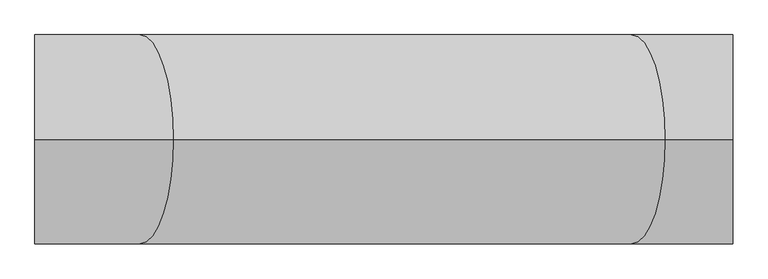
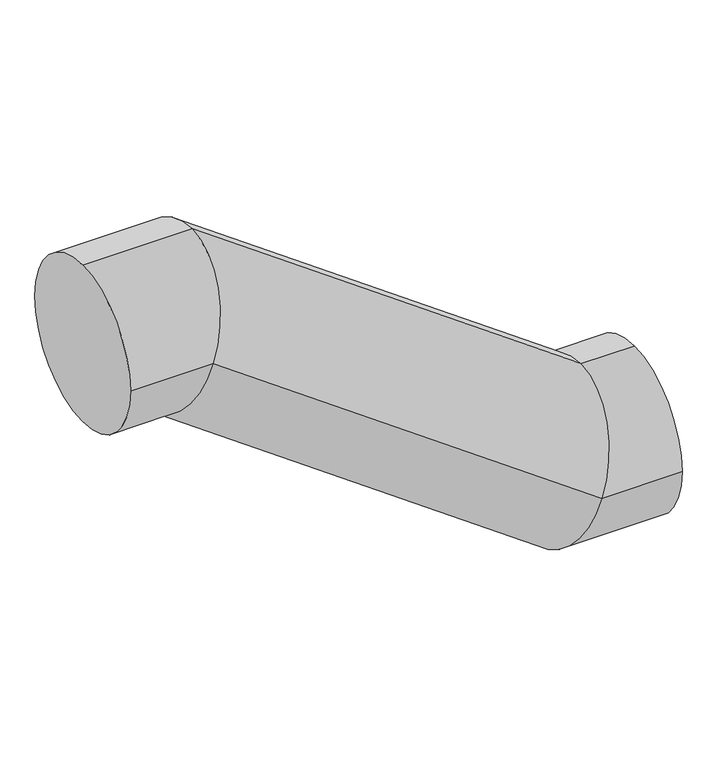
"""IFC4 building model written with IfcOpenShell, lengths in millimetres: duct fitting geometry, BL_УткаВоздуховодов_Круглая : Ниппельное соединение."""

from ifc_helpers import new_model, si_unit, frame, origin, place, context, project, spatial, circle_curve, ellipse_curve, source, transform, mapped, element, save
from ifc_brep_helpers import plane_surface, cylinder_surface, advanced_brep


def duct_fitting_5eff2181(model_context):
    return source(origin(), model_context, "Body", "AdvancedBrep", [
        advanced_brep(
        [(0.0, -150.0, 0.0), (0.0, 0.0, 150.0), (0.0, 150.0, 0.0), (0.0, 0.0, -150.0), (150.0, 150.0, 0.0), (101.7994324, 0.0, -150.0), (198.2005676, 0.0, 150.0), (854.8, 150.0, -505.113589), (806.5994324, 0.0, -655.113589), (903.0005676, 0.0, -355.113589), (1000.0, -150.0, -505.113589), (1000.0, 0.0, -655.113589), (1000.0, 150.0, -505.113589), (1000.0, 0.0, -355.113589), (150.0, -150.0, 0.0), (854.8, -150.0, -505.113589)],
        [
            (0, 1, circle_curve(frame((0.0, 0.0, 0.0), z_axis=(-1.0, 0.0, 0.0), x_axis=(0.0, 0.0, 1.0)), 150.0)),
            (1, 2, circle_curve(frame((0.0, 0.0, 0.0), z_axis=(-1.0, 0.0, 0.0), x_axis=(0.0, 0.0, 1.0)), 150.0)),
            (2, 3, circle_curve(frame((0.0, 0.0, 0.0), z_axis=(-1.0, 0.0, 0.0), x_axis=(0.0, 0.0, 1.0)), 150.0)),
            (3, 0, circle_curve(frame((0.0, 0.0, 0.0), z_axis=(-1.0, 0.0, 0.0), x_axis=(0.0, 0.0, 1.0)), 150.0)),
            (2, 4),
            (4, 5, ellipse_curve(frame((150.0, 0.0, 0.0), z_axis=(-0.9520539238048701, 0.0, 0.30593026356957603), x_axis=(-0.30593026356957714, 0.0, -0.9520539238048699)), 157.5541009, 150.0)),
            (5, 3),
            (1, 6),
            (6, 4, ellipse_curve(frame((150.0, 0.0, 0.0), z_axis=(-0.9520539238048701, 0.0, 0.30593026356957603), x_axis=(-0.30593026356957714, 0.0, -0.9520539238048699)), 157.5541009, 150.0)),
            (4, 7),
            (7, 8, ellipse_curve(frame((854.8, 0.0, -505.113589), z_axis=(-0.9520539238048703, 0.0, 0.30593026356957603), x_axis=(0.30593026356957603, 0.0, 0.9520539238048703)), 157.5541009, 150.0)),
            (8, 5),
            (6, 9),
            (9, 7, ellipse_curve(frame((854.8, 0.0, -505.113589), z_axis=(-0.9520539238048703, 0.0, 0.30593026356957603), x_axis=(0.30593026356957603, 0.0, 0.9520539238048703)), 157.5541009, 150.0)),
            (10, 11, circle_curve(frame((1000.0, 0.0, -505.113589), z_axis=(1.0, 0.0, 0.0), x_axis=(0.0, 0.0, 1.0)), 150.0)),
            (11, 12, circle_curve(frame((1000.0, 0.0, -505.113589), z_axis=(1.0, 0.0, 0.0), x_axis=(0.0, 0.0, 1.0)), 150.0)),
            (12, 13, circle_curve(frame((1000.0, 0.0, -505.113589), z_axis=(1.0, 0.0, 0.0), x_axis=(0.0, 0.0, 1.0)), 150.0)),
            (13, 10, circle_curve(frame((1000.0, 0.0, -505.113589), z_axis=(1.0, 0.0, 0.0), x_axis=(0.0, 0.0, 1.0)), 150.0)),
            (7, 12),
            (11, 8),
            (9, 13),
            (0, 14),
            (14, 6, ellipse_curve(frame((150.0, 0.0, 0.0), z_axis=(-0.9520539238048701, 0.0, 0.30593026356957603), x_axis=(-0.30593026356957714, 0.0, -0.9520539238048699)), 157.5541009, 150.0)),
            (5, 14, ellipse_curve(frame((150.0, 0.0, 0.0), z_axis=(-0.9520539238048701, 0.0, 0.30593026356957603), x_axis=(-0.30593026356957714, 0.0, -0.9520539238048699)), 157.5541009, 150.0)),
            (14, 15),
            (15, 9, ellipse_curve(frame((854.8, 0.0, -505.113589), z_axis=(-0.9520539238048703, 0.0, 0.30593026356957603), x_axis=(0.30593026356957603, 0.0, 0.9520539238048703)), 157.5541009, 150.0)),
            (8, 15, ellipse_curve(frame((854.8, 0.0, -505.113589), z_axis=(-0.9520539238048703, 0.0, 0.30593026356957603), x_axis=(0.30593026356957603, 0.0, 0.9520539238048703)), 157.5541009, 150.0)),
            (15, 10),
        ],
        [
            plane_surface(frame((0.0, 0.0, 0.0), z_axis=(-1.0, 0.0, 0.0), x_axis=(0.0, -1.0, 0.0))),
            cylinder_surface(frame((0.0, 0.0, 0.0), z_axis=(-1.0, 0.0, 0.0), x_axis=(0.0, 0.0, 1.0)), 150.0),
            cylinder_surface(frame((150.0, 0.0, 0.0), z_axis=(-0.8128133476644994, 0.0, 0.5825242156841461), x_axis=(0.5825242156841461, 0.0, 0.8128133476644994)), 150.0),
            plane_surface(frame((1000.0, 0.0, -505.113589), z_axis=(1.0, 0.0, 0.0), x_axis=(0.0, -1.0, 0.0))),
            cylinder_surface(frame((854.8, 0.0, -505.113589), z_axis=(-1.0, 0.0, 0.0), x_axis=(0.0, 0.0, 1.0)), 150.0),
        ],
        [
            (0, [[1, 2, 3, 4]]),
            (1, [[-3, 5, 6, 7]]),
            (1, [[-2, 8, 9, -5]]),
            (2, [[-6, 10, 11, 12]]),
            (2, [[-9, 13, 14, -10]]),
            (3, [[15, 16, 17, 18]]),
            (4, [[-11, 19, -16, 20]]),
            (4, [[-14, 21, -17, -19]]),
            (1, [[-1, 22, 23, -8]]),
            (1, [[-4, -7, 24, -22]]),
            (2, [[-23, 25, 26, -13]]),
            (2, [[-24, -12, 27, -25]]),
            (4, [[-26, 28, -18, -21]]),
            (4, [[-27, -20, -15, -28]]),
        ],
    ),
    ])


if __name__ == "__main__":
    model = new_model("IFC4")
    model_context = context("Model", 3, world=origin())
    ifc_project = project(units=[si_unit("LENGTHUNIT", "METRE", prefix="MILLI")], contexts=[model_context])
    site = spatial("IfcSite", under=ifc_project)
    building = spatial("IfcBuilding", under=site)
    placement = place(None, origin())
    duct_fitting_shape = duct_fitting_5eff2181(model_context)
    element("IfcDuctFitting", 1, ObjectType="BL_УткаВоздуховодов_Круглая : Ниппельное соединение", at=placement, inside=building, context=model_context, shape_type="MappedRepresentation", body=[
        mapped(duct_fitting_shape, transform((0.0, 0.0, 0.0), x_axis=(1.0, 0.0, 0.0), y_axis=(0.0, 1.0, 0.0), z_axis=(0.0, 0.0, 1.0))),
    ])
    save(model, "model.ifc")
